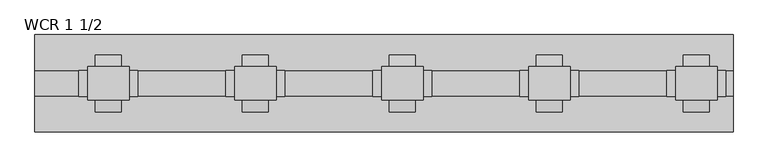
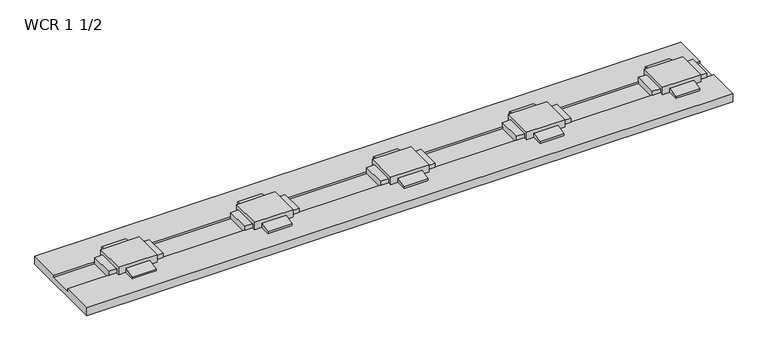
"""IFC4 building model written with IfcOpenShell, lengths in millimetres: proxy geometry, Duct-Walkercell-Wiremold : WCR 1 1/2."""

from ifc_helpers import new_model, si_unit, frame, origin, place, context, project, spatial, polyline, outline, extrude, faceted_brep, source, transform, mapped, element, save


def wcr_1_1_2_d8c6af24(model_context):
    return source(origin(), model_context, "Body", "SolidModel", [
        faceted_brep([(2657.475, 69.85, 34.925), (2657.475, -69.85, 34.925), (2828.925, -69.85, 34.925), (2828.925, 69.85, 34.925), (2620.9625, -53.975, -9.525), (2620.9625, 53.975, -9.525), (2865.4375, 53.975, -9.525), (2865.4375, -53.975, -9.525), (2828.925, 53.975, 0.0), (2657.475, 53.975, 0.0), (2657.475, 69.85, 0.0), (2689.225, 69.85, 0.0), (2689.225, 118.2751, 0.0), (2797.175, 118.2751, 0.0), (2797.175, 69.85, 0.0), (2828.925, 69.85, 0.0), (2828.925, 53.975, 19.05), (2865.4375, 53.975, 19.05), (2620.9625, 53.975, 19.05), (2657.475, 53.975, 19.05), (2657.475, -53.975, 0.0), (2828.925, -53.975, 0.0), (2828.925, -69.85, 0.0), (2797.175, -69.85, 0.0), (2797.175, -118.2751, 0.0), (2689.225, -118.2751, 0.0), (2689.225, -69.85, 0.0), (2657.475, -69.85, 0.0), (2657.475, -53.975, 19.05), (2620.9625, -53.975, 19.05), (2865.4375, -53.975, 19.05), (2828.925, -53.975, 19.05), (2689.225, -69.85, 19.05), (2797.175, -69.85, 19.05), (2797.175, 69.85, 19.05), (2689.225, 69.85, 19.05), (2797.175, 118.2751, 7.9375), (2797.175, -118.2751, 7.9375), (2689.225, 118.2751, 7.9375), (2689.225, -118.2751, 7.9375)], [[[0, 1, 2, 3]], [[4, 5, 6, 7]], [[8, 9, 10, 11, 12, 13, 14, 15]], [[9, 8, 16, 17, 6, 5, 18, 19]], [[20, 21, 22, 23, 24, 25, 26, 27]], [[21, 20, 28, 29, 4, 7, 30, 31]], [[1, 0, 10, 9, 19, 28, 20, 27]], [[2, 1, 27, 26, 32, 33, 23, 22]], [[3, 2, 22, 21, 31, 16, 8, 15]], [[0, 3, 15, 14, 34, 35, 11, 10]], [[31, 30, 17, 16]], [[18, 29, 28, 19]], [[29, 18, 5, 4]], [[17, 30, 7, 6]], [[36, 34, 14, 13]], [[37, 24, 23, 33]], [[38, 12, 11, 35]], [[39, 32, 26, 25]], [[34, 36, 38, 35]], [[36, 13, 12, 38]], [[24, 37, 39, 25]], [[37, 33, 32, 39]]]),
        faceted_brep([(2047.875, 69.85, 34.925), (2047.875, -69.85, 34.925), (2219.325, -69.85, 34.925), (2219.325, 69.85, 34.925), (2011.3625, -53.975, -9.525), (2011.3625, 53.975, -9.525), (2255.8375, 53.975, -9.525), (2255.8375, -53.975, -9.525), (2219.325, 53.975, 0.0), (2047.875, 53.975, 0.0), (2047.875, 69.85, 0.0), (2079.625, 69.85, 0.0), (2079.625, 118.2751, 0.0), (2187.575, 118.2751, 0.0), (2187.575, 69.85, 0.0), (2219.325, 69.85, 0.0), (2219.325, 53.975, 19.05), (2255.8375, 53.975, 19.05), (2011.3625, 53.975, 19.05), (2047.875, 53.975, 19.05), (2047.875, -53.975, 0.0), (2219.325, -53.975, 0.0), (2219.325, -69.85, 0.0), (2187.575, -69.85, 0.0), (2187.575, -118.2751, 0.0), (2079.625, -118.2751, 0.0), (2079.625, -69.85, 0.0), (2047.875, -69.85, 0.0), (2047.875, -53.975, 19.05), (2011.3625, -53.975, 19.05), (2255.8375, -53.975, 19.05), (2219.325, -53.975, 19.05), (2079.625, -69.85, 19.05), (2187.575, -69.85, 19.05), (2187.575, 69.85, 19.05), (2079.625, 69.85, 19.05), (2187.575, 118.2751, 7.9375), (2187.575, -118.2751, 7.9375), (2079.625, 118.2751, 7.9375), (2079.625, -118.2751, 7.9375)], [[[0, 1, 2, 3]], [[4, 5, 6, 7]], [[8, 9, 10, 11, 12, 13, 14, 15]], [[9, 8, 16, 17, 6, 5, 18, 19]], [[20, 21, 22, 23, 24, 25, 26, 27]], [[21, 20, 28, 29, 4, 7, 30, 31]], [[1, 0, 10, 9, 19, 28, 20, 27]], [[2, 1, 27, 26, 32, 33, 23, 22]], [[3, 2, 22, 21, 31, 16, 8, 15]], [[0, 3, 15, 14, 34, 35, 11, 10]], [[31, 30, 17, 16]], [[18, 29, 28, 19]], [[29, 18, 5, 4]], [[17, 30, 7, 6]], [[36, 34, 14, 13]], [[37, 24, 23, 33]], [[38, 12, 11, 35]], [[39, 32, 26, 25]], [[34, 36, 38, 35]], [[36, 13, 12, 38]], [[24, 37, 39, 25]], [[37, 33, 32, 39]]]),
        faceted_brep([(1438.275, 69.85, 34.925), (1438.275, -69.85, 34.925), (1609.725, -69.85, 34.925), (1609.725, 69.85, 34.925), (1401.7625, -53.975, -9.525), (1401.7625, 53.975, -9.525), (1646.2375, 53.975, -9.525), (1646.2375, -53.975, -9.525), (1609.725, 53.975, 0.0), (1438.275, 53.975, 0.0), (1438.275, 69.85, 0.0), (1470.025, 69.85, 0.0), (1470.025, 118.2751, 0.0), (1577.975, 118.2751, 0.0), (1577.975, 69.85, 0.0), (1609.725, 69.85, 0.0), (1609.725, 53.975, 19.05), (1646.2375, 53.975, 19.05), (1401.7625, 53.975, 19.05), (1438.275, 53.975, 19.05), (1438.275, -53.975, 0.0), (1609.725, -53.975, 0.0), (1609.725, -69.85, 0.0), (1577.975, -69.85, 0.0), (1577.975, -118.2751, 0.0), (1470.025, -118.2751, 0.0), (1470.025, -69.85, 0.0), (1438.275, -69.85, 0.0), (1438.275, -53.975, 19.05), (1401.7625, -53.975, 19.05), (1646.2375, -53.975, 19.05), (1609.725, -53.975, 19.05), (1470.025, -69.85, 19.05), (1577.975, -69.85, 19.05), (1577.975, 69.85, 19.05), (1470.025, 69.85, 19.05), (1577.975, 118.2751, 7.9375), (1577.975, -118.2751, 7.9375), (1470.025, 118.2751, 7.9375), (1470.025, -118.2751, 7.9375)], [[[0, 1, 2, 3]], [[4, 5, 6, 7]], [[8, 9, 10, 11, 12, 13, 14, 15]], [[9, 8, 16, 17, 6, 5, 18, 19]], [[20, 21, 22, 23, 24, 25, 26, 27]], [[21, 20, 28, 29, 4, 7, 30, 31]], [[1, 0, 10, 9, 19, 28, 20, 27]], [[2, 1, 27, 26, 32, 33, 23, 22]], [[3, 2, 22, 21, 31, 16, 8, 15]], [[0, 3, 15, 14, 34, 35, 11, 10]], [[31, 30, 17, 16]], [[18, 29, 28, 19]], [[29, 18, 5, 4]], [[17, 30, 7, 6]], [[36, 34, 14, 13]], [[37, 24, 23, 33]], [[38, 12, 11, 35]], [[39, 32, 26, 25]], [[34, 36, 38, 35]], [[36, 13, 12, 38]], [[24, 37, 39, 25]], [[37, 33, 32, 39]]]),
        faceted_brep([(828.675, 69.85, 34.925), (828.675, -69.85, 34.925), (1000.125, -69.85, 34.925), (1000.125, 69.85, 34.925), (792.1625, -53.975, -9.525), (792.1625, 53.975, -9.525), (1036.6375, 53.975, -9.525), (1036.6375, -53.975, -9.525), (1000.125, 53.975, 0.0), (828.675, 53.975, 0.0), (828.675, 69.85, 0.0), (860.425, 69.85, 0.0), (860.425, 118.2751, 0.0), (968.375, 118.2751, 0.0), (968.375, 69.85, 0.0), (1000.125, 69.85, 0.0), (1000.125, 53.975, 19.05), (1036.6375, 53.975, 19.05), (792.1625, 53.975, 19.05), (828.675, 53.975, 19.05), (828.675, -53.975, 0.0), (1000.125, -53.975, 0.0), (1000.125, -69.85, 0.0), (968.375, -69.85, 0.0), (968.375, -118.2751, 0.0), (860.425, -118.2751, 0.0), (860.425, -69.85, 0.0), (828.675, -69.85, 0.0), (828.675, -53.975, 19.05), (792.1625, -53.975, 19.05), (1036.6375, -53.975, 19.05), (1000.125, -53.975, 19.05), (860.425, -69.85, 19.05), (968.375, -69.85, 19.05), (968.375, 69.85, 19.05), (860.425, 69.85, 19.05), (968.375, 118.2751, 7.9375), (968.375, -118.2751, 7.9375), (860.425, 118.2751, 7.9375), (860.425, -118.2751, 7.9375)], [[[0, 1, 2, 3]], [[4, 5, 6, 7]], [[8, 9, 10, 11, 12, 13, 14, 15]], [[9, 8, 16, 17, 6, 5, 18, 19]], [[20, 21, 22, 23, 24, 25, 26, 27]], [[21, 20, 28, 29, 4, 7, 30, 31]], [[1, 0, 10, 9, 19, 28, 20, 27]], [[2, 1, 27, 26, 32, 33, 23, 22]], [[3, 2, 22, 21, 31, 16, 8, 15]], [[0, 3, 15, 14, 34, 35, 11, 10]], [[31, 30, 17, 16]], [[18, 29, 28, 19]], [[29, 18, 5, 4]], [[17, 30, 7, 6]], [[36, 34, 14, 13]], [[37, 24, 23, 33]], [[38, 12, 11, 35]], [[39, 32, 26, 25]], [[34, 36, 38, 35]], [[36, 13, 12, 38]], [[24, 37, 39, 25]], [[37, 33, 32, 39]]]),
        faceted_brep([(219.075, 69.85, 34.925), (219.075, -69.85, 34.925), (390.525, -69.85, 34.925), (390.525, 69.85, 34.925), (182.5625, -53.975, -9.525), (182.5625, 53.975, -9.525), (427.0375, 53.975, -9.525), (427.0375, -53.975, -9.525), (390.525, 53.975, 0.0), (219.075, 53.975, 0.0), (219.075, 69.85, 0.0), (250.825, 69.85, 0.0), (250.825, 118.2751, 0.0), (358.775, 118.2751, 0.0), (358.775, 69.85, 0.0), (390.525, 69.85, 0.0), (390.525, 53.975, 19.05), (427.0375, 53.975, 19.05), (182.5625, 53.975, 19.05), (219.075, 53.975, 19.05), (219.075, -53.975, 0.0), (390.525, -53.975, 0.0), (390.525, -69.85, 0.0), (358.775, -69.85, 0.0), (358.775, -118.2751, 0.0), (250.825, -118.2751, 0.0), (250.825, -69.85, 0.0), (219.075, -69.85, 0.0), (219.075, -53.975, 19.05), (182.5625, -53.975, 19.05), (427.0375, -53.975, 19.05), (390.525, -53.975, 19.05), (250.825, -69.85, 19.05), (358.775, -69.85, 19.05), (358.775, 69.85, 19.05), (250.825, 69.85, 19.05), (358.775, 118.2751, 7.9375), (358.775, -118.2751, 7.9375), (250.825, 118.2751, 7.9375), (250.825, -118.2751, 7.9375)], [[[0, 1, 2, 3]], [[4, 5, 6, 7]], [[8, 9, 10, 11, 12, 13, 14, 15]], [[9, 8, 16, 17, 6, 5, 18, 19]], [[20, 21, 22, 23, 24, 25, 26, 27]], [[21, 20, 28, 29, 4, 7, 30, 31]], [[1, 0, 10, 9, 19, 28, 20, 27]], [[2, 1, 27, 26, 32, 33, 23, 22]], [[3, 2, 22, 21, 31, 16, 8, 15]], [[0, 3, 15, 14, 34, 35, 11, 10]], [[31, 30, 17, 16]], [[18, 29, 28, 19]], [[29, 18, 5, 4]], [[17, 30, 7, 6]], [[36, 34, 14, 13]], [[37, 24, 23, 33]], [[38, 12, 11, 35]], [[39, 32, 26, 25]], [[34, 36, 38, 35]], [[36, 13, 12, 38]], [[24, 37, 39, 25]], [[37, 33, 32, 39]]]),
        extrude(outline(polyline([(-53.975, 0.0), (-53.975, -9.525), (53.975, -9.525), (53.975, 0.0), (201.6125, 0.0), (201.6125, -38.1), (-201.6125, -38.1), (-201.6125, 0.0), (-53.975, 0.0)])), frame((0.0, 0.0, 0.0), z_axis=(1.0, 0.0, 0.0), x_axis=(0.0, 1.0, 0.0)), (0.0, 0.0, 1.0), 2895.6),
    ])


if __name__ == "__main__":
    model = new_model("IFC4")
    model_context = context("Model", 3, world=origin())
    ifc_project = project(units=[si_unit("LENGTHUNIT", "METRE", prefix="MILLI")], contexts=[model_context])
    site = spatial("IfcSite", under=ifc_project)
    building = spatial("IfcBuilding", under=site)
    placement = place(None, origin())
    wcr_1_1_2_shape = wcr_1_1_2_d8c6af24(model_context)
    element("IfcBuildingElementProxy", 1, Name="Duct-Walkercell-Wiremold : WCR 1 1/2", ObjectType="Duct-Walkercell-Wiremold : WCR 1 1/2", at=placement, inside=building, context=model_context, shape_type="MappedRepresentation", body=[
        mapped(wcr_1_1_2_shape, transform((0.0, 0.0, 0.0), x_axis=(1.0, 0.0, 0.0), y_axis=(0.0, 1.0, 0.0), z_axis=(0.0, 0.0, 1.0))),
    ])
    save(model, "model.ifc")
